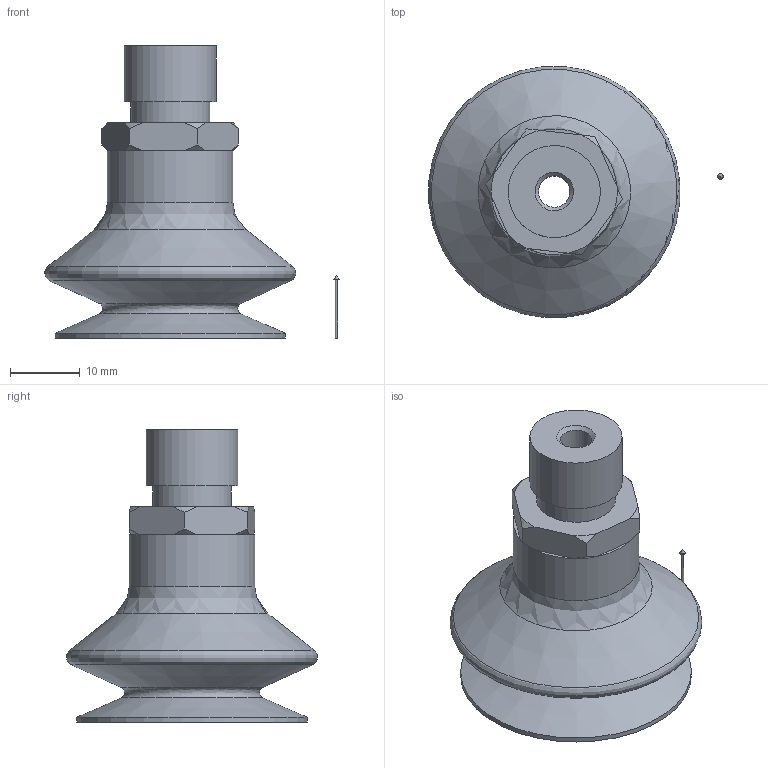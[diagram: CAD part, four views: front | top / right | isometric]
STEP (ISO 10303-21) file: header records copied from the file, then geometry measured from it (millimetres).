
FILE_DESCRIPTION(('STEP AP214'),'1');
FILE_NAME('KIT.08.31.D33.21.stp','2019-05-28T06:30:10',(' '),(' '),'Spatial InterOp 3D',' ',' ');
FILE_SCHEMA(('AUTOMOTIVE_DESIGN { 1 0 10303 214 1 1 1 1 }'));
Length unit declared in the file: millimetre
Products named in the file (5): KIT.08.31.D33.21; CA.08.09.021; CA.08.31.007
Assembly tree (4 placements, depth 3):
  KIT.08.31.D33.21
    CA.08.09.021
    (unnamed)
      CA.08.31.007
      CA.08.31.007
Bounding box: 42.09 x 35.87 x 41.8 mm (x, y, z)
Volume: 10471.5 mm3; surface area: 13840.7 mm2
Topology: 3 solids, 3 shells, 56 faces, 138 edges, 93 vertices
Faces by surface type: cone 23, plane 17, cylinder 10, revolution 6
Full cylindrical faces by diameter (mm): 0.4 x1, 4.5 x1, 8 x1, 8.8 x1, 11.3 x1, 12 x1, 13.157 x1, 15.999 x1, 17.999 x1, 33 x1
Entity records: 2084 total; most frequent: CARTESIAN_POINT 439, DIRECTION 232, ORIENTED_EDGE 180, AXIS2_PLACEMENT_3D 104, EDGE_LOOP 92, EDGE_CURVE 90, VERTEX_POINT 73, FACE_OUTER_BOUND 72
